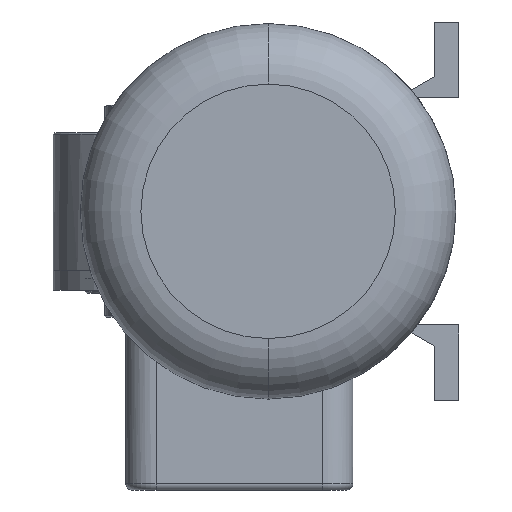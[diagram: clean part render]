
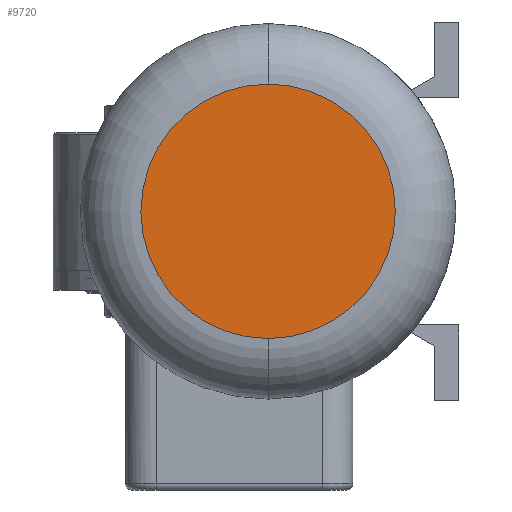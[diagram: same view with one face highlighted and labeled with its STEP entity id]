
A CAD part, left-side view. The second image highlights one B-rep face of the part: STEP entity #9720.
In plain terms, the highlighted planar face has unit normal (-1, 0, 0).
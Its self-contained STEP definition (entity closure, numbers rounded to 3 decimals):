
#67 = CIRCLE ( 'NONE', #12247, 42. ) ;
#807 = CARTESIAN_POINT ( 'NONE',  ( 0., 0., 0. ) ) ;
#1029 = DIRECTION ( 'NONE',  ( 0., 0., -1. ) ) ;
#1122 = CARTESIAN_POINT ( 'NONE',  ( 0., 0., 0. ) ) ;
#2444 = ORIENTED_EDGE ( 'NONE', *, *, #4562, .T. ) ;
#3351 = DIRECTION ( 'NONE',  ( 0., 0., -1. ) ) ;
#4562 = EDGE_CURVE ( 'NONE', #6519, #5518, #67, .T. ) ;
#4809 = AXIS2_PLACEMENT_3D ( 'NONE', #807, #5208, #11721 ) ;
#4979 = PLANE ( 'NONE',  #4809 ) ;
#5125 = FACE_OUTER_BOUND ( 'NONE', #6844, .T. ) ;
#5208 = DIRECTION ( 'NONE',  ( 1., 0., 0. ) ) ;
#5504 = DIRECTION ( 'NONE',  ( -1., 0., 0. ) ) ;
#5518 = VERTEX_POINT ( 'NONE', #12510 ) ;
#5958 = EDGE_CURVE ( 'NONE', #5518, #6519, #7410, .T. ) ;
#6519 = VERTEX_POINT ( 'NONE', #9834 ) ;
#6844 = EDGE_LOOP ( 'NONE', ( #9399, #2444 ) ) ;
#7410 = CIRCLE ( 'NONE', #8546, 42. ) ;
#8546 = AXIS2_PLACEMENT_3D ( 'NONE', #1122, #5504, #3351 ) ;
#8752 = CARTESIAN_POINT ( 'NONE',  ( 0., 0., 0. ) ) ;
#9399 = ORIENTED_EDGE ( 'NONE', *, *, #5958, .T. ) ;
#9720 = ADVANCED_FACE ( 'NONE', ( #5125 ), #4979, .F. ) ;
#9834 = CARTESIAN_POINT ( 'NONE',  ( 0., 0., 42. ) ) ;
#11721 = DIRECTION ( 'NONE',  ( 0., 0., -1. ) ) ;
#12247 = AXIS2_PLACEMENT_3D ( 'NONE', #8752, #13014, #1029 ) ;
#12510 = CARTESIAN_POINT ( 'NONE',  ( 0., 0., -42. ) ) ;
#13014 = DIRECTION ( 'NONE',  ( -1., 0., 0. ) ) ;
